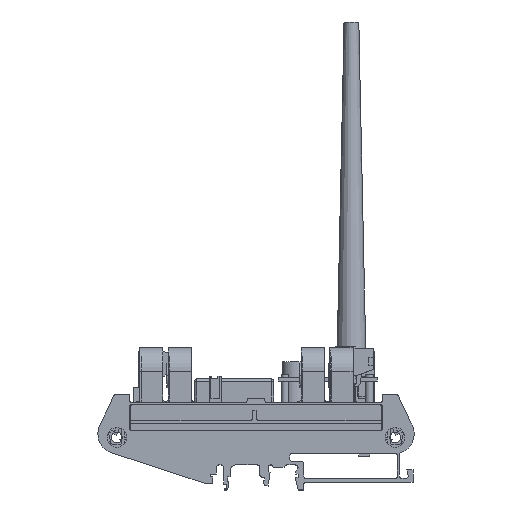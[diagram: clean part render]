
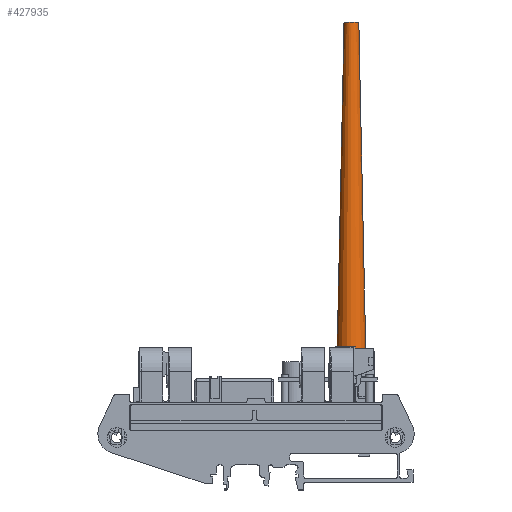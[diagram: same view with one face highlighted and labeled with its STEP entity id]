
A CAD part, left-side view. The second image highlights one B-rep face of the part: STEP entity #427935.
In plain terms, the highlighted conical face has half-angle 1.236 degrees and reference radius 6 mm.
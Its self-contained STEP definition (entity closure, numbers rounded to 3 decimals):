
#427935 = ADVANCED_FACE('',(#427936),#427949,.T.);
#427936 = FACE_BOUND('',#427937,.T.);
#427937 = EDGE_LOOP('',(#427938,#427972,#427995,#428022));
#427938 = ORIENTED_EDGE('',*,*,#427939,.F.);
#427939 = EDGE_CURVE('',#427940,#427940,#427942,.T.);
#427940 = VERTEX_POINT('',#427941);
#427941 = CARTESIAN_POINT('',(175.6,13.5,156.5));
#427942 = SURFACE_CURVE('',#427943,(#427948,#427960),.PCURVE_S1.);
#427943 = CIRCLE('',#427944,3.);
#427944 = AXIS2_PLACEMENT_3D('',#427945,#427946,#427947);
#427945 = CARTESIAN_POINT('',(172.6,13.5,156.5));
#427946 = DIRECTION('',(0.,0.,1.));
#427947 = DIRECTION('',(1.,0.,-0.));
#427948 = PCURVE('',#427949,#427954);
#427949 = CONICAL_SURFACE('',#427950,6.,0.022);
#427950 = AXIS2_PLACEMENT_3D('',#427951,#427952,#427953);
#427951 = CARTESIAN_POINT('',(172.6,13.5,17.5));
#427952 = DIRECTION('',(-0.,-0.,-1.));
#427953 = DIRECTION('',(1.,0.,0.));
#427954 = DEFINITIONAL_REPRESENTATION('',(#427955),#427959);
#427955 = LINE('',#427956,#427957);
#427956 = CARTESIAN_POINT('',(6.283,-139.));
#427957 = VECTOR('',#427958,1.);
#427958 = DIRECTION('',(-1.,0.));
#427959 = ( GEOMETRIC_REPRESENTATION_CONTEXT(2) 
PARAMETRIC_REPRESENTATION_CONTEXT() REPRESENTATION_CONTEXT('2D SPACE',''
  ) );
#427960 = PCURVE('',#427961,#427966);
#427961 = PLANE('',#427962);
#427962 = AXIS2_PLACEMENT_3D('',#427963,#427964,#427965);
#427963 = CARTESIAN_POINT('',(172.6,13.5,156.5));
#427964 = DIRECTION('',(0.,0.,1.));
#427965 = DIRECTION('',(1.,0.,-0.));
#427966 = DEFINITIONAL_REPRESENTATION('',(#427967),#427971);
#427967 = CIRCLE('',#427968,3.);
#427968 = AXIS2_PLACEMENT_2D('',#427969,#427970);
#427969 = CARTESIAN_POINT('',(0.,0.));
#427970 = DIRECTION('',(1.,0.));
#427971 = ( GEOMETRIC_REPRESENTATION_CONTEXT(2) 
PARAMETRIC_REPRESENTATION_CONTEXT() REPRESENTATION_CONTEXT('2D SPACE',''
  ) );
#427972 = ORIENTED_EDGE('',*,*,#427973,.F.);
#427973 = EDGE_CURVE('',#427974,#427940,#427976,.T.);
#427974 = VERTEX_POINT('',#427975);
#427975 = CARTESIAN_POINT('',(178.6,13.5,17.5));
#427976 = SEAM_CURVE('',#427977,(#427981,#427988),.PCURVE_S1.);
#427977 = LINE('',#427978,#427979);
#427978 = CARTESIAN_POINT('',(178.6,13.5,17.5));
#427979 = VECTOR('',#427980,1.);
#427980 = DIRECTION('',(-0.022,0.,1.));
#427981 = PCURVE('',#427949,#427982);
#427982 = DEFINITIONAL_REPRESENTATION('',(#427983),#427987);
#427983 = LINE('',#427984,#427985);
#427984 = CARTESIAN_POINT('',(6.283,0.));
#427985 = VECTOR('',#427986,1.);
#427986 = DIRECTION('',(-0.,-1.));
#427987 = ( GEOMETRIC_REPRESENTATION_CONTEXT(2) 
PARAMETRIC_REPRESENTATION_CONTEXT() REPRESENTATION_CONTEXT('2D SPACE',''
  ) );
#427988 = PCURVE('',#427949,#427989);
#427989 = DEFINITIONAL_REPRESENTATION('',(#427990),#427994);
#427990 = LINE('',#427991,#427992);
#427991 = CARTESIAN_POINT('',(0.,0.));
#427992 = VECTOR('',#427993,1.);
#427993 = DIRECTION('',(-0.,-1.));
#427994 = ( GEOMETRIC_REPRESENTATION_CONTEXT(2) 
PARAMETRIC_REPRESENTATION_CONTEXT() REPRESENTATION_CONTEXT('2D SPACE',''
  ) );
#427995 = ORIENTED_EDGE('',*,*,#427996,.T.);
#427996 = EDGE_CURVE('',#427974,#427974,#427997,.T.);
#427997 = SURFACE_CURVE('',#427998,(#428003,#428010),.PCURVE_S1.);
#427998 = CIRCLE('',#427999,6.);
#427999 = AXIS2_PLACEMENT_3D('',#428000,#428001,#428002);
#428000 = CARTESIAN_POINT('',(172.6,13.5,17.5));
#428001 = DIRECTION('',(0.,0.,1.));
#428002 = DIRECTION('',(1.,0.,-0.));
#428003 = PCURVE('',#427949,#428004);
#428004 = DEFINITIONAL_REPRESENTATION('',(#428005),#428009);
#428005 = LINE('',#428006,#428007);
#428006 = CARTESIAN_POINT('',(6.283,0.));
#428007 = VECTOR('',#428008,1.);
#428008 = DIRECTION('',(-1.,0.));
#428009 = ( GEOMETRIC_REPRESENTATION_CONTEXT(2) 
PARAMETRIC_REPRESENTATION_CONTEXT() REPRESENTATION_CONTEXT('2D SPACE',''
  ) );
#428010 = PCURVE('',#428011,#428016);
#428011 = PLANE('',#428012);
#428012 = AXIS2_PLACEMENT_3D('',#428013,#428014,#428015);
#428013 = CARTESIAN_POINT('',(172.6,13.5,17.5));
#428014 = DIRECTION('',(0.,0.,1.));
#428015 = DIRECTION('',(1.,0.,-0.));
#428016 = DEFINITIONAL_REPRESENTATION('',(#428017),#428021);
#428017 = CIRCLE('',#428018,6.);
#428018 = AXIS2_PLACEMENT_2D('',#428019,#428020);
#428019 = CARTESIAN_POINT('',(0.,0.));
#428020 = DIRECTION('',(1.,0.));
#428021 = ( GEOMETRIC_REPRESENTATION_CONTEXT(2) 
PARAMETRIC_REPRESENTATION_CONTEXT() REPRESENTATION_CONTEXT('2D SPACE',''
  ) );
#428022 = ORIENTED_EDGE('',*,*,#427973,.T.);
